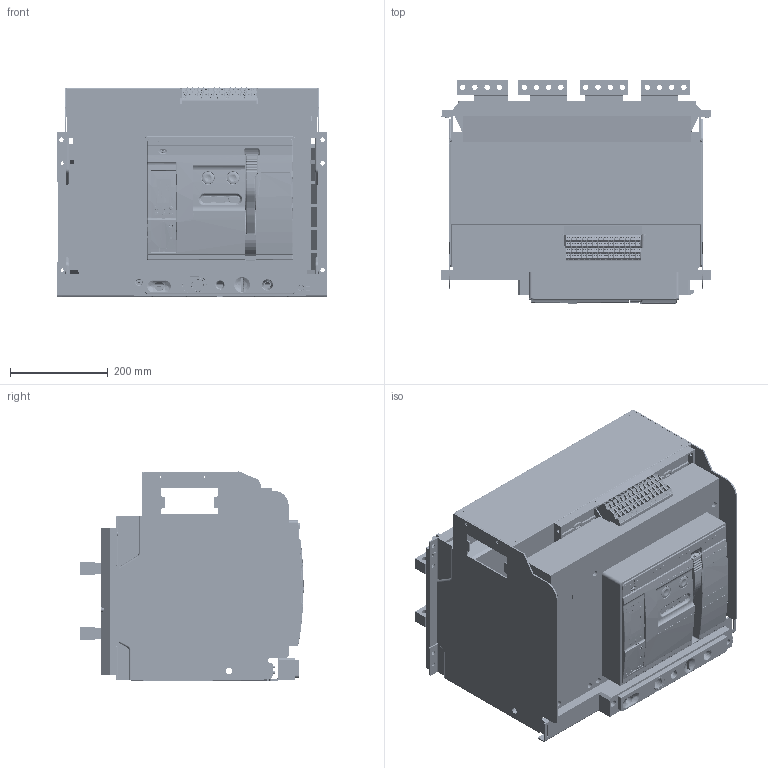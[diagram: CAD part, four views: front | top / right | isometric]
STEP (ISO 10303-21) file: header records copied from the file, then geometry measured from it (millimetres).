
FILE_DESCRIPTION(/* description */ (''),/* implementation_level */ '2;1');
FILE_NAME(/* name */ 'C:/Users/carlos.gonzalez/Documents/ADRIAN_TEMP_DRAWING/Ex9A32_4P_3200_DO_PB_Drawing.step',/* time_stamp */ '2021-10-14T13:03:36+02:00',/* author */ (''),/* organization */ (''),/* preprocessor_version */ 'ST-DEVELOPER v18.1',/* originating_system */ 'Autodesk Translation Framework v10.10.0.1391',/* authorisation */ '');
FILE_SCHEMA (('AUTOMOTIVE_DESIGN { 1 0 10303 214 3 1 1 }'));
Products named in the file (61): Ex9A32_4P_3200_DO; Ex9A32_4P_3200_DO_1; Auxiliary terminals; 5ZTD-558-695-4000_ASM; 5ZTD-558-712_ASM; 5ZTD-558-712_ASM_1; 5ZTD-558-712_ASM_2; 5ZTD-558-712_ASM_3; 5ZTD-558-712_ASM_4; 5ZTD-558-712_ASM_5; 5ZTD-558-712_ASM_6; 5ZTD-558-712_ASM_7; 5ZTD-558-712_ASM_8; 5ZTD-558-712_ASM_9; 5ZTD-558-712_ASM_10; 5ZTD-558-712_ASM_11; 5ZTD-558-712_ASM_12; 5ZTD-558-712_ASM_13; 8ZTD-024-837; 8ZTD-557-514; 8ZTD-557-515; 8ZTD-557-516; 8ZTD-557-517; M3_GB6170; M3X8_GB818; 8ZTD-141-185; 8ZTD-141-184; 8ZTD-860-699; 8ZTD-064-136; Cover; 5300A1526114_ASM; 8300A0101127_34; 8235A0101009_2; 8253A0101002_7; 8320A0101121-0814_3; 8860A0724001_4; 8ZTD_282_1203_AF1_6; 8ZTD_282_1203_AF2_6; 8253A0101107-1_5; 8253A0101106-1_5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
Assembly tree (266 placements, depth 6):
  Ex9A32_4P_3200_DO
    Ex9A32_4P_3200_DO_1
      Auxiliary terminals
        5ZTD-558-695-4000_ASM
          5ZTD-558-712_ASM
            8ZTD-024-837
            8ZTD-557-514
            8ZTD-557-515
            8ZTD-557-516
            8ZTD-557-517
            M3_GB6170  x4
            M3X8_GB818  x4
            8ZTD-141-185
            8ZTD-141-184
          5ZTD-558-712_ASM_1
            8ZTD-024-837
            8ZTD-557-514
            8ZTD-557-515
            8ZTD-557-516
            8ZTD-557-517
            M3_GB6170  x4
            M3X8_GB818  x4
            8ZTD-141-185
            8ZTD-141-184
          5ZTD-558-712_ASM_2
            8ZTD-024-837
            8ZTD-557-514
            8ZTD-557-515
            8ZTD-557-516
            8ZTD-557-517
            M3_GB6170  x4
            M3X8_GB818  x4
            8ZTD-141-185
            8ZTD-141-184
          5ZTD-558-712_ASM_3
            8ZTD-024-837
            8ZTD-557-514
            8ZTD-557-515
            8ZTD-557-516
            8ZTD-557-517
            M3_GB6170  x4
            M3X8_GB818  x4
            8ZTD-141-185
            8ZTD-141-184
          5ZTD-558-712_ASM_4
            8ZTD-024-837
            8ZTD-557-514
            8ZTD-557-515
            8ZTD-557-516
            8ZTD-557-517
            M3_GB6170  x4
            M3X8_GB818  x4
            8ZTD-141-185
            8ZTD-141-184
          5ZTD-558-712_ASM_5
            8ZTD-024-837
            8ZTD-557-514
            8ZTD-557-515
            8ZTD-557-516
            8ZTD-557-517
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Bounding box: 554 x 456.99 x 428.53 mm (x, y, z)
Volume: 17835496.4 mm3; surface area: 4097960.8 mm2
Topology: 244 solids, 331 shells, 19345 faces, 51437 edges, 33418 vertices
Faces by surface type: plane 14402, cylinder 2661, bspline 933, cone 837, torus 393, sphere 119
Full cylindrical faces by diameter (mm): 2 x539, 2.1 x2, 2.246 x56, 2.5 x3, 2.6 x2, 3 x88, 3.2 x4, 3.3 x1, 3.5 x45, 4 x94, 4.3 x1, 4.5 x3, 5 x20, 5.008 x1, 5.5 x1, 6 x5, 6.1 x1, 6.5 x8, 7 x8, 8 x2, 8.3 x2, 8.5 x32, 9 x12, 10 x32, 11 x35, 12 x7, 12.5 x1, 13 x5, 14 x2, 14.4 x1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
Entity records: 255217 total; most frequent: CARTESIAN_POINT 98169, ORIENTED_EDGE 32870, DIRECTION 30785, EDGE_CURVE 16488, LINE 11849, VECTOR 11849, VERTEX_POINT 10688, AXIS2_PLACEMENT_3D 9468
